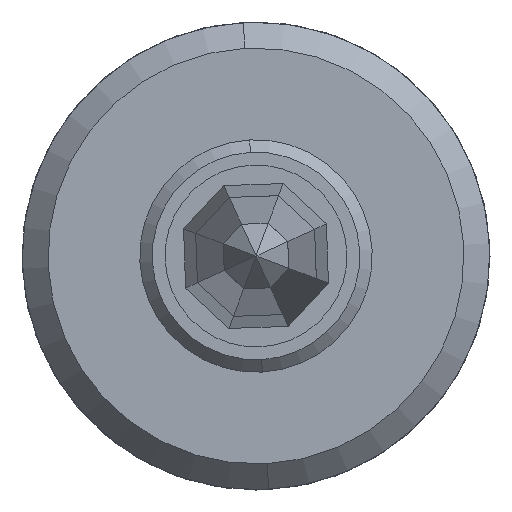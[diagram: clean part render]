
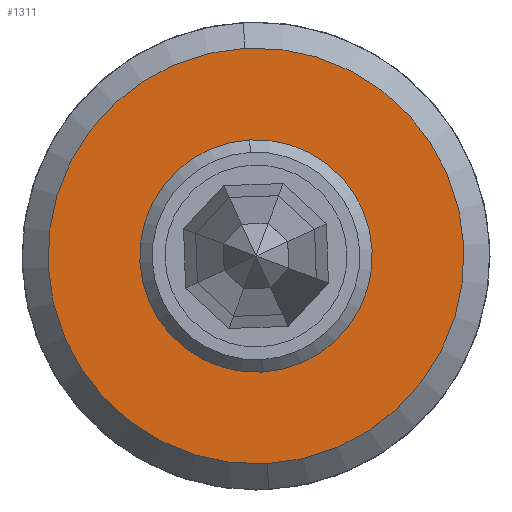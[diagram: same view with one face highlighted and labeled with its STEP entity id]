
A CAD part, left-side view. The second image highlights one B-rep face of the part: STEP entity #1311.
In plain terms, the highlighted planar face has unit normal (-1, 0, 0) as drawn and (1, 0, 0) by its records, which use the part's own axes.
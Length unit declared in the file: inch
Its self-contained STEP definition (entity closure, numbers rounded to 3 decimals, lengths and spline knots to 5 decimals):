
#18 = CARTESIAN_POINT ( 'NONE',  ( 7.14049, 11.13956, 0. ) ) ;
#19 = AXIS2_PLACEMENT_3D ( 'NONE', #18, #21, #20 ) ;
#20 = DIRECTION ( 'NONE',  ( 0., 0., -1. ) ) ;
#21 = DIRECTION ( 'NONE',  ( 1., 0., 0. ) ) ;
#22 = CIRCLE ( 'NONE', #19, 0.494 ) ;
#59 = DIRECTION ( 'NONE',  ( 0., 0., 1. ) ) ;
#60 = DIRECTION ( 'NONE',  ( -1., 0., 0. ) ) ;
#61 = AXIS2_PLACEMENT_3D ( 'NONE', #63, #60, #59 ) ;
#63 = CARTESIAN_POINT ( 'NONE',  ( 7.14049, 10.10189, 0. ) ) ;
#64 = PLANE ( 'NONE',  #61 ) ;
#65 = FACE_BOUND ( 'NONE', #1314, .T. ) ;
#106 = FACE_OUTER_BOUND ( 'NONE', #1312, .T. ) ;
#113 = DIRECTION ( 'NONE',  ( 0., 0., -1. ) ) ;
#114 = DIRECTION ( 'NONE',  ( 1., 0., 0. ) ) ;
#115 = CARTESIAN_POINT ( 'NONE',  ( 7.14049, 11.13956, 0. ) ) ;
#116 = AXIS2_PLACEMENT_3D ( 'NONE', #115, #114, #113 ) ;
#121 = CIRCLE ( 'NONE', #116, 0.494 ) ;
#212 = CARTESIAN_POINT ( 'NONE',  ( 7.14049, 10.13956, 0. ) ) ;
#213 = DIRECTION ( 'NONE',  ( 0., -1., 0. ) ) ;
#214 = DIRECTION ( 'NONE',  ( -1., 0., 0. ) ) ;
#215 = CARTESIAN_POINT ( 'NONE',  ( 7.14049, 11.13956, 0. ) ) ;
#216 = AXIS2_PLACEMENT_3D ( 'NONE', #215, #214, #213 ) ;
#217 = CIRCLE ( 'NONE', #216, 1. ) ;
#218 = CARTESIAN_POINT ( 'NONE',  ( 7.14049, 12.13956, 0. ) ) ;
#278 = DIRECTION ( 'NONE',  ( -1., 0., 0. ) ) ;
#279 = CARTESIAN_POINT ( 'NONE',  ( 7.14049, 11.13956, 0. ) ) ;
#280 = AXIS2_PLACEMENT_3D ( 'NONE', #279, #278, #330 ) ;
#281 = CIRCLE ( 'NONE', #280, 1. ) ;
#330 = DIRECTION ( 'NONE',  ( 0., -1., 0. ) ) ;
#670 = CARTESIAN_POINT ( 'NONE',  ( 7.14049, 11.13956, 0.494 ) ) ;
#833 = CARTESIAN_POINT ( 'NONE',  ( 7.14049, 11.13956, -0.494 ) ) ;
#1277 = VERTEX_POINT ( 'NONE', #670 ) ;
#1284 = VERTEX_POINT ( 'NONE', #833 ) ;
#1286 = EDGE_CURVE ( 'NONE', #1284, #1277, #22, .T. ) ;
#1304 = EDGE_CURVE ( 'NONE', #1277, #1284, #121, .T. ) ;
#1311 = ADVANCED_FACE ( 'NONE', ( #106, #65 ), #64, .F. ) ;
#1312 = EDGE_LOOP ( 'NONE', ( #1313, #1426 ) ) ;
#1313 = ORIENTED_EDGE ( 'NONE', *, *, #1374, .F. ) ;
#1314 = EDGE_LOOP ( 'NONE', ( #1480, #1481 ) ) ;
#1371 = VERTEX_POINT ( 'NONE', #218 ) ;
#1374 = EDGE_CURVE ( 'NONE', #1375, #1371, #217, .T. ) ;
#1375 = VERTEX_POINT ( 'NONE', #212 ) ;
#1426 = ORIENTED_EDGE ( 'NONE', *, *, #1445, .F. ) ;
#1445 = EDGE_CURVE ( 'NONE', #1371, #1375, #281, .T. ) ;
#1480 = ORIENTED_EDGE ( 'NONE', *, *, #1286, .F. ) ;
#1481 = ORIENTED_EDGE ( 'NONE', *, *, #1304, .F. ) ;
